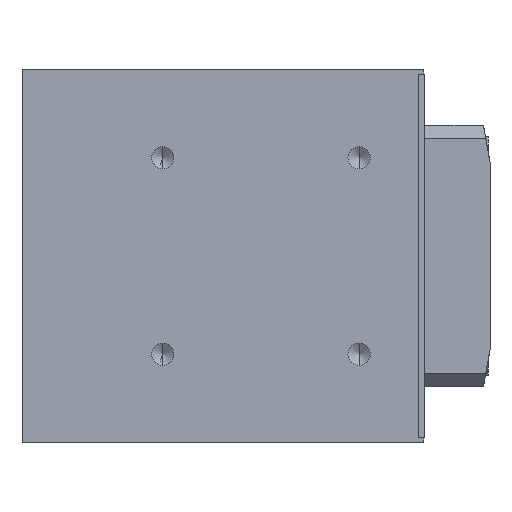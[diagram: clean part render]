
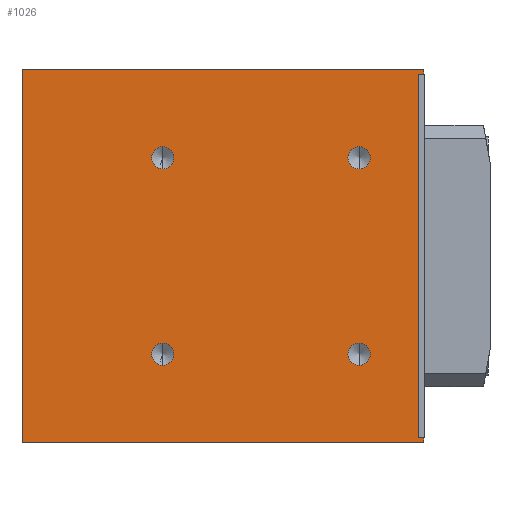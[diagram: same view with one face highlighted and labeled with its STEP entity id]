
A CAD part, front view. The second image highlights one B-rep face of the part: STEP entity #1026.
In plain terms, the highlighted planar face has unit normal (0, -1, 0).
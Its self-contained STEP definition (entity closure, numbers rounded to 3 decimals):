
#48 = ORIENTED_EDGE ( 'NONE', *, *, #1065, .F. ) ;
#787 = VERTEX_POINT ( 'NONE', #3103 ) ;
#830 = VERTEX_POINT ( 'NONE', #3153 ) ;
#832 = EDGE_CURVE ( 'NONE', #830, #833, #3152, .T. ) ;
#833 = VERTEX_POINT ( 'NONE', #3147 ) ;
#840 = EDGE_CURVE ( 'NONE', #787, #841, #3196, .T. ) ;
#841 = VERTEX_POINT ( 'NONE', #3192 ) ;
#870 = VERTEX_POINT ( 'NONE', #3261 ) ;
#872 = EDGE_CURVE ( 'NONE', #870, #873, #3260, .T. ) ;
#873 = VERTEX_POINT ( 'NONE', #3255 ) ;
#878 = EDGE_CURVE ( 'NONE', #5044, #879, #3243, .T. ) ;
#879 = VERTEX_POINT ( 'NONE', #3239 ) ;
#947 = ORIENTED_EDGE ( 'NONE', *, *, #840, .F. ) ;
#948 = EDGE_LOOP ( 'NONE', ( #949, #951 ) ) ;
#949 = ORIENTED_EDGE ( 'NONE', *, *, #950, .F. ) ;
#950 = EDGE_CURVE ( 'NONE', #833, #830, #3422, .T. ) ;
#951 = ORIENTED_EDGE ( 'NONE', *, *, #832, .F. ) ;
#952 = EDGE_LOOP ( 'NONE', ( #1009, #1011 ) ) ;
#963 = VERTEX_POINT ( 'NONE', #3395 ) ;
#965 = EDGE_CURVE ( 'NONE', #966, #963, #3458, .T. ) ;
#966 = VERTEX_POINT ( 'NONE', #3454 ) ;
#995 = EDGE_CURVE ( 'NONE', #1019, #996, #3467, .T. ) ;
#996 = VERTEX_POINT ( 'NONE', #3463 ) ;
#997 = ORIENTED_EDGE ( 'NONE', *, *, #998, .F. ) ;
#998 = EDGE_CURVE ( 'NONE', #999, #996, #3462, .T. ) ;
#999 = VERTEX_POINT ( 'NONE', #3520 ) ;
#1000 = ORIENTED_EDGE ( 'NONE', *, *, #1001, .F. ) ;
#1001 = EDGE_CURVE ( 'NONE', #966, #999, #3519, .T. ) ;
#1002 = ORIENTED_EDGE ( 'NONE', *, *, #965, .T. ) ;
#1003 = ORIENTED_EDGE ( 'NONE', *, *, #1004, .T. ) ;
#1004 = EDGE_CURVE ( 'NONE', #963, #1005, #3515, .T. ) ;
#1005 = VERTEX_POINT ( 'NONE', #3511 ) ;
#1006 = ORIENTED_EDGE ( 'NONE', *, *, #1007, .F. ) ;
#1007 = EDGE_CURVE ( 'NONE', #1008, #1005, #3510, .T. ) ;
#1008 = VERTEX_POINT ( 'NONE', #3506 ) ;
#1009 = ORIENTED_EDGE ( 'NONE', *, *, #1010, .F. ) ;
#1010 = EDGE_CURVE ( 'NONE', #879, #5044, #3505, .T. ) ;
#1011 = ORIENTED_EDGE ( 'NONE', *, *, #878, .F. ) ;
#1012 = EDGE_LOOP ( 'NONE', ( #1013, #1015 ) ) ;
#1013 = ORIENTED_EDGE ( 'NONE', *, *, #1014, .F. ) ;
#1014 = EDGE_CURVE ( 'NONE', #873, #870, #3500, .T. ) ;
#1015 = ORIENTED_EDGE ( 'NONE', *, *, #872, .F. ) ;
#1016 = EDGE_LOOP ( 'NONE', ( #1017, #1021, #997, #1000, #1002, #1003, #1006, #48 ) ) ;
#1017 = ORIENTED_EDGE ( 'NONE', *, *, #1018, .F. ) ;
#1018 = EDGE_CURVE ( 'NONE', #1019, #1020, #3495, .T. ) ;
#1019 = VERTEX_POINT ( 'NONE', #3491 ) ;
#1020 = VERTEX_POINT ( 'NONE', #3490 ) ;
#1021 = ORIENTED_EDGE ( 'NONE', *, *, #995, .T. ) ;
#1026 = ADVANCED_FACE ( 'NONE', ( #3544, #3543, #3542, #3541, #3540 ), #3539, .F. ) ;
#1027 = EDGE_LOOP ( 'NONE', ( #1028, #947 ) ) ;
#1028 = ORIENTED_EDGE ( 'NONE', *, *, #1029, .F. ) ;
#1029 = EDGE_CURVE ( 'NONE', #841, #787, #3534, .T. ) ;
#1065 = EDGE_CURVE ( 'NONE', #1020, #1008, #3608, .T. ) ;
#3103 = CARTESIAN_POINT ( 'NONE',  ( 103., 0., 30.4 ) ) ;
#3147 = CARTESIAN_POINT ( 'NONE',  ( 103., 0., 83.6 ) ) ;
#3148 = DIRECTION ( 'NONE',  ( 0., 0., -1. ) ) ;
#3149 = DIRECTION ( 'NONE',  ( 0., -1., 0. ) ) ;
#3150 = CARTESIAN_POINT ( 'NONE',  ( 103., 0., 87. ) ) ;
#3151 = AXIS2_PLACEMENT_3D ( 'NONE', #3150, #3149, #3148 ) ;
#3152 = CIRCLE ( 'NONE', #3151, 3.4 ) ;
#3153 = CARTESIAN_POINT ( 'NONE',  ( 103., 0., 90.4 ) ) ;
#3192 = CARTESIAN_POINT ( 'NONE',  ( 103., 0., 23.6 ) ) ;
#3193 = DIRECTION ( 'NONE',  ( 0., 0., -1. ) ) ;
#3194 = DIRECTION ( 'NONE',  ( 0., -1., 0. ) ) ;
#3195 = AXIS2_PLACEMENT_3D ( 'NONE', #3202, #3194, #3193 ) ;
#3196 = CIRCLE ( 'NONE', #3195, 3.4 ) ;
#3202 = CARTESIAN_POINT ( 'NONE',  ( 103., 0., 27. ) ) ;
#3239 = CARTESIAN_POINT ( 'NONE',  ( 43., 0., 83.6 ) ) ;
#3240 = DIRECTION ( 'NONE',  ( 0., 0., -1. ) ) ;
#3241 = DIRECTION ( 'NONE',  ( 0., -1., 0. ) ) ;
#3242 = AXIS2_PLACEMENT_3D ( 'NONE', #3249, #3241, #3240 ) ;
#3243 = CIRCLE ( 'NONE', #3242, 3.4 ) ;
#3249 = CARTESIAN_POINT ( 'NONE',  ( 43., 0., 87. ) ) ;
#3255 = CARTESIAN_POINT ( 'NONE',  ( 43., 0., 23.6 ) ) ;
#3256 = DIRECTION ( 'NONE',  ( 0., 0., -1. ) ) ;
#3257 = DIRECTION ( 'NONE',  ( 0., -1., 0. ) ) ;
#3258 = CARTESIAN_POINT ( 'NONE',  ( 43., 0., 27. ) ) ;
#3259 = AXIS2_PLACEMENT_3D ( 'NONE', #3258, #3257, #3256 ) ;
#3260 = CIRCLE ( 'NONE', #3259, 3.4 ) ;
#3261 = CARTESIAN_POINT ( 'NONE',  ( 43., 0., 30.4 ) ) ;
#3395 = CARTESIAN_POINT ( 'NONE',  ( 0., 0., 0. ) ) ;
#3418 = DIRECTION ( 'NONE',  ( 0., 0., -1. ) ) ;
#3419 = DIRECTION ( 'NONE',  ( 0., -1., 0. ) ) ;
#3420 = CARTESIAN_POINT ( 'NONE',  ( 103., 0., 87. ) ) ;
#3421 = AXIS2_PLACEMENT_3D ( 'NONE', #3420, #3419, #3418 ) ;
#3422 = CIRCLE ( 'NONE', #3421, 3.4 ) ;
#3454 = CARTESIAN_POINT ( 'NONE',  ( 0., 0., 114. ) ) ;
#3455 = DIRECTION ( 'NONE',  ( 0., 0., -1. ) ) ;
#3456 = VECTOR ( 'NONE', #3455, 1000. ) ;
#3457 = CARTESIAN_POINT ( 'NONE',  ( 0., 0., 114. ) ) ;
#3458 = LINE ( 'NONE', #3457, #3456 ) ;
#3459 = DIRECTION ( 'NONE',  ( 0., 0., -1. ) ) ;
#3460 = VECTOR ( 'NONE', #3459, 1000. ) ;
#3461 = CARTESIAN_POINT ( 'NONE',  ( 122.7, 0., 114. ) ) ;
#3462 = LINE ( 'NONE', #3461, #3460 ) ;
#3463 = CARTESIAN_POINT ( 'NONE',  ( 122.7, 0., 112.5 ) ) ;
#3464 = DIRECTION ( 'NONE',  ( 1., 0., 0. ) ) ;
#3465 = VECTOR ( 'NONE', #3464, 1000. ) ;
#3466 = CARTESIAN_POINT ( 'NONE',  ( 121., 0., 112.5 ) ) ;
#3467 = LINE ( 'NONE', #3466, #3465 ) ;
#3490 = CARTESIAN_POINT ( 'NONE',  ( 121., 0., 1.5 ) ) ;
#3491 = CARTESIAN_POINT ( 'NONE',  ( 121., 0., 112.5 ) ) ;
#3492 = DIRECTION ( 'NONE',  ( 0., 0., -1. ) ) ;
#3493 = VECTOR ( 'NONE', #3492, 1000. ) ;
#3494 = CARTESIAN_POINT ( 'NONE',  ( 121., 0., 112.5 ) ) ;
#3495 = LINE ( 'NONE', #3494, #3493 ) ;
#3496 = DIRECTION ( 'NONE',  ( 0., 0., -1. ) ) ;
#3497 = DIRECTION ( 'NONE',  ( 0., -1., 0. ) ) ;
#3498 = CARTESIAN_POINT ( 'NONE',  ( 43., 0., 27. ) ) ;
#3499 = AXIS2_PLACEMENT_3D ( 'NONE', #3498, #3497, #3496 ) ;
#3500 = CIRCLE ( 'NONE', #3499, 3.4 ) ;
#3501 = DIRECTION ( 'NONE',  ( 0., 0., -1. ) ) ;
#3502 = DIRECTION ( 'NONE',  ( 0., -1., 0. ) ) ;
#3503 = CARTESIAN_POINT ( 'NONE',  ( 43., 0., 87. ) ) ;
#3504 = AXIS2_PLACEMENT_3D ( 'NONE', #3503, #3502, #3501 ) ;
#3505 = CIRCLE ( 'NONE', #3504, 3.4 ) ;
#3506 = CARTESIAN_POINT ( 'NONE',  ( 122.7, 0., 1.5 ) ) ;
#3507 = DIRECTION ( 'NONE',  ( 0., 0., -1. ) ) ;
#3508 = VECTOR ( 'NONE', #3507, 1000. ) ;
#3509 = CARTESIAN_POINT ( 'NONE',  ( 122.7, 0., 114. ) ) ;
#3510 = LINE ( 'NONE', #3509, #3508 ) ;
#3511 = CARTESIAN_POINT ( 'NONE',  ( 122.7, 0., 0. ) ) ;
#3512 = DIRECTION ( 'NONE',  ( 1., 0., 0. ) ) ;
#3513 = VECTOR ( 'NONE', #3512, 1000. ) ;
#3514 = CARTESIAN_POINT ( 'NONE',  ( 0., 0., 0. ) ) ;
#3515 = LINE ( 'NONE', #3514, #3513 ) ;
#3516 = DIRECTION ( 'NONE',  ( 1., 0., 0. ) ) ;
#3517 = VECTOR ( 'NONE', #3516, 1000. ) ;
#3518 = CARTESIAN_POINT ( 'NONE',  ( 0., 0., 114. ) ) ;
#3519 = LINE ( 'NONE', #3518, #3517 ) ;
#3520 = CARTESIAN_POINT ( 'NONE',  ( 122.7, 0., 114. ) ) ;
#3530 = DIRECTION ( 'NONE',  ( 0., 0., -1. ) ) ;
#3531 = DIRECTION ( 'NONE',  ( 0., -1., 0. ) ) ;
#3532 = CARTESIAN_POINT ( 'NONE',  ( 103., 0., 27. ) ) ;
#3533 = AXIS2_PLACEMENT_3D ( 'NONE', #3532, #3531, #3530 ) ;
#3534 = CIRCLE ( 'NONE', #3533, 3.4 ) ;
#3535 = DIRECTION ( 'NONE',  ( 0., 0., 1. ) ) ;
#3536 = DIRECTION ( 'NONE',  ( 0., 1., 0. ) ) ;
#3537 = CARTESIAN_POINT ( 'NONE',  ( 0., 0., 114. ) ) ;
#3538 = AXIS2_PLACEMENT_3D ( 'NONE', #3537, #3536, #3535 ) ;
#3539 = PLANE ( 'NONE',  #3538 ) ;
#3540 = FACE_OUTER_BOUND ( 'NONE', #1016, .T. ) ;
#3541 = FACE_BOUND ( 'NONE', #1012, .T. ) ;
#3542 = FACE_BOUND ( 'NONE', #952, .T. ) ;
#3543 = FACE_BOUND ( 'NONE', #948, .T. ) ;
#3544 = FACE_BOUND ( 'NONE', #1027, .T. ) ;
#3605 = DIRECTION ( 'NONE',  ( 1., 0., 0. ) ) ;
#3606 = VECTOR ( 'NONE', #3605, 1000. ) ;
#3607 = CARTESIAN_POINT ( 'NONE',  ( 121., 0., 1.5 ) ) ;
#3608 = LINE ( 'NONE', #3607, #3606 ) ;
#4933 = CARTESIAN_POINT ( 'NONE',  ( 43., 0., 90.4 ) ) ;
#5044 = VERTEX_POINT ( 'NONE', #4933 ) ;
